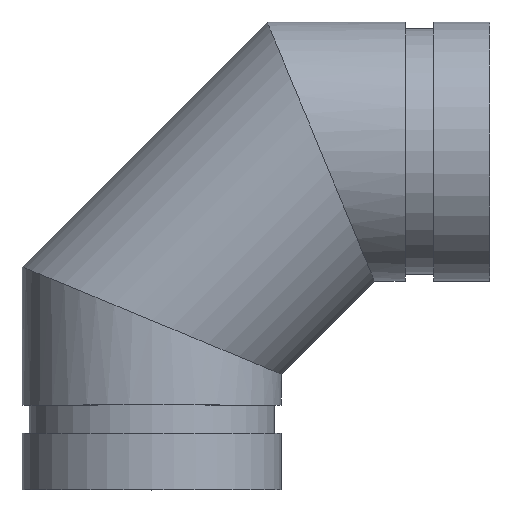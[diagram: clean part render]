
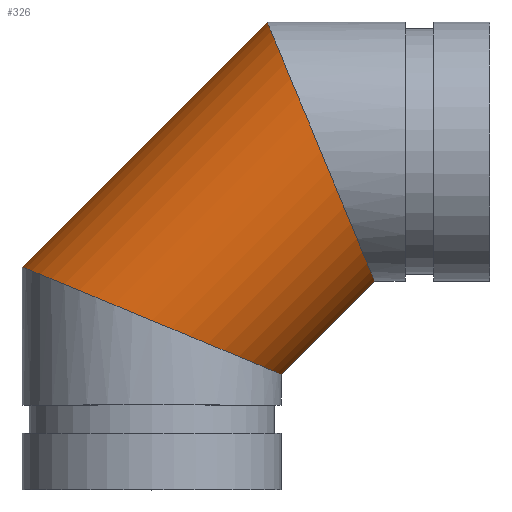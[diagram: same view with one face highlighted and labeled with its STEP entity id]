
A CAD part, top view. The second image highlights one B-rep face of the part: STEP entity #326.
In plain terms, the highlighted cylindrical face has radius 36.513 mm (diameter 73.025 mm), a full revolution.
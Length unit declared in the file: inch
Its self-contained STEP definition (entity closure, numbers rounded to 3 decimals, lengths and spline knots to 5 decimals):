
#51=ELLIPSE('',#383,1.55594,1.4375);
#52=ELLIPSE('',#384,1.55594,1.4375);
#53=ELLIPSE('',#385,1.55594,1.4375);
#54=ELLIPSE('',#388,1.55594,1.4375);
#55=ELLIPSE('',#389,1.55594,1.4375);
#56=ELLIPSE('',#390,1.55594,1.4375);
#82=FACE_OUTER_BOUND('',#103,.T.);
#103=EDGE_LOOP('',(#269,#270,#271,#272,#273,#274,#275,#276));
#115=LINE('',#606,#125);
#125=VECTOR('',#494,1.4375);
#165=VERTEX_POINT('',#596);
#166=VERTEX_POINT('',#598);
#167=VERTEX_POINT('',#600);
#168=VERTEX_POINT('',#605);
#169=VERTEX_POINT('',#607);
#170=VERTEX_POINT('',#609);
#201=EDGE_CURVE('',#165,#166,#51,.T.);
#202=EDGE_CURVE('',#167,#166,#52,.T.);
#203=EDGE_CURVE('',#167,#165,#53,.T.);
#204=EDGE_CURVE('',#165,#168,#115,.T.);
#205=EDGE_CURVE('',#168,#169,#54,.T.);
#206=EDGE_CURVE('',#170,#169,#55,.T.);
#207=EDGE_CURVE('',#170,#168,#56,.T.);
#269=ORIENTED_EDGE('',*,*,#203,.F.);
#270=ORIENTED_EDGE('',*,*,#202,.T.);
#271=ORIENTED_EDGE('',*,*,#201,.F.);
#272=ORIENTED_EDGE('',*,*,#204,.T.);
#273=ORIENTED_EDGE('',*,*,#205,.T.);
#274=ORIENTED_EDGE('',*,*,#206,.F.);
#275=ORIENTED_EDGE('',*,*,#207,.T.);
#276=ORIENTED_EDGE('',*,*,#204,.F.);
#293=CYLINDRICAL_SURFACE('',#387,1.4375);
#326=ADVANCED_FACE('',(#82),#293,.T.);
#383=AXIS2_PLACEMENT_3D('',#599,#484,#485);
#384=AXIS2_PLACEMENT_3D('',#601,#486,#487);
#385=AXIS2_PLACEMENT_3D('',#602,#488,#489);
#387=AXIS2_PLACEMENT_3D('',#604,#492,#493);
#388=AXIS2_PLACEMENT_3D('',#608,#495,#496);
#389=AXIS2_PLACEMENT_3D('',#610,#497,#498);
#390=AXIS2_PLACEMENT_3D('',#611,#499,#500);
#484=DIRECTION('center_axis',(-0.383,-0.924,0.));
#485=DIRECTION('ref_axis',(0.924,-0.383,0.));
#486=DIRECTION('center_axis',(0.383,0.924,0.));
#487=DIRECTION('ref_axis',(0.924,-0.383,0.));
#488=DIRECTION('center_axis',(-0.383,-0.924,0.));
#489=DIRECTION('ref_axis',(0.924,-0.383,0.));
#492=DIRECTION('center_axis',(-0.707,-0.707,0.));
#493=DIRECTION('ref_axis',(0.707,-0.707,0.));
#494=DIRECTION('',(0.707,0.707,0.));
#495=DIRECTION('center_axis',(-0.924,-0.383,0.));
#496=DIRECTION('ref_axis',(0.383,-0.924,0.));
#497=DIRECTION('center_axis',(0.924,0.383,0.));
#498=DIRECTION('ref_axis',(0.383,-0.924,0.));
#499=DIRECTION('center_axis',(-0.924,-0.383,0.));
#500=DIRECTION('ref_axis',(0.383,-0.924,0.));
#596=CARTESIAN_POINT('',(-1.4375,-1.27957,0.));
#598=CARTESIAN_POINT('',(0.,-1.875,-1.4375));
#599=CARTESIAN_POINT('Origin',(0.,-1.875,0.));
#600=CARTESIAN_POINT('',(0.,-1.875,1.4375));
#601=CARTESIAN_POINT('Origin',(0.,-1.875,0.));
#602=CARTESIAN_POINT('Origin',(0.,-1.875,0.));
#604=CARTESIAN_POINT('Origin',(1.875,0.,0.));
#605=CARTESIAN_POINT('',(1.27957,1.4375,0.));
#606=CARTESIAN_POINT('',(0.85853,1.01647,0.));
#607=CARTESIAN_POINT('',(1.875,0.,-1.4375));
#608=CARTESIAN_POINT('Origin',(1.875,0.,0.));
#609=CARTESIAN_POINT('',(1.875,0.,1.4375));
#610=CARTESIAN_POINT('Origin',(1.875,0.,0.));
#611=CARTESIAN_POINT('Origin',(1.875,0.,0.));
